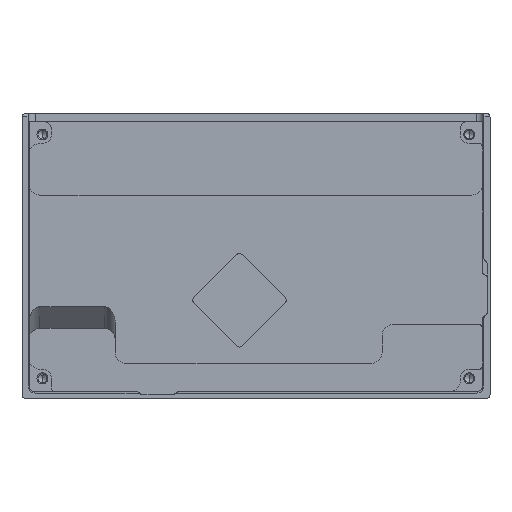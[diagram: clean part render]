
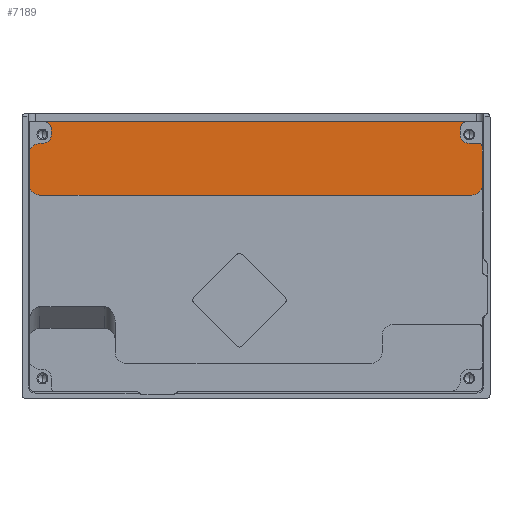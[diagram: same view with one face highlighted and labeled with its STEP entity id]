
A CAD part, front view. The second image highlights one B-rep face of the part: STEP entity #7189.
In plain terms, the highlighted planar face has unit normal (0, -1, 0).
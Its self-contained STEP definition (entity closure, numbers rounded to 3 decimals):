
#98 = DIRECTION ( 'NONE',  ( 0., -1., 0. ) ) ;
#169 = EDGE_CURVE ( 'NONE', #3846, #5768, #5826, .T. ) ;
#356 = EDGE_CURVE ( 'NONE', #5003, #4691, #3264, .T. ) ;
#447 = DIRECTION ( 'NONE',  ( 0., 0., -1. ) ) ;
#484 = DIRECTION ( 'NONE',  ( 0., 1., 0. ) ) ;
#624 = DIRECTION ( 'NONE',  ( -1., 0., 0. ) ) ;
#698 = ORIENTED_EDGE ( 'NONE', *, *, #4154, .F. ) ;
#801 = EDGE_CURVE ( 'NONE', #5756, #5670, #4018, .T. ) ;
#843 = VERTEX_POINT ( 'NONE', #8776 ) ;
#1005 = CIRCLE ( 'NONE', #1570, 3. ) ;
#1021 = ORIENTED_EDGE ( 'NONE', *, *, #6438, .T. ) ;
#1022 = CIRCLE ( 'NONE', #7600, 2. ) ;
#1087 = DIRECTION ( 'NONE',  ( 0., 0., -1. ) ) ;
#1110 = VERTEX_POINT ( 'NONE', #3136 ) ;
#1113 = EDGE_CURVE ( 'NONE', #5756, #1110, #1022, .T. ) ;
#1126 = DIRECTION ( 'NONE',  ( 0., 1., 0. ) ) ;
#1179 = ORIENTED_EDGE ( 'NONE', *, *, #6217, .T. ) ;
#1180 = VERTEX_POINT ( 'NONE', #3088 ) ;
#1339 = LINE ( 'NONE', #6028, #7005 ) ;
#1384 = CIRCLE ( 'NONE', #6105, 3. ) ;
#1408 = CARTESIAN_POINT ( 'NONE',  ( 123.2, 23.5, -20.4 ) ) ;
#1570 = AXIS2_PLACEMENT_3D ( 'NONE', #6071, #2561, #5480 ) ;
#1576 = CIRCLE ( 'NONE', #8589, 2.5 ) ;
#1632 = CARTESIAN_POINT ( 'NONE',  ( 3.5, 23.5, -6. ) ) ;
#1703 = DIRECTION ( 'NONE',  ( 0., 0., 1. ) ) ;
#1846 = VECTOR ( 'NONE', #7569, 1000. ) ;
#1860 = VECTOR ( 'NONE', #5256, 1000. ) ;
#1981 = ORIENTED_EDGE ( 'NONE', *, *, #1113, .T. ) ;
#2015 = EDGE_CURVE ( 'NONE', #3339, #5768, #1384, .T. ) ;
#2023 = EDGE_CURVE ( 'NONE', #8604, #5210, #7974, .T. ) ;
#2029 = ORIENTED_EDGE ( 'NONE', *, *, #2015, .T. ) ;
#2302 = ORIENTED_EDGE ( 'NONE', *, *, #6774, .T. ) ;
#2466 = CIRCLE ( 'NONE', #8055, 3. ) ;
#2498 = ORIENTED_EDGE ( 'NONE', *, *, #6047, .F. ) ;
#2545 = VECTOR ( 'NONE', #1703, 1000. ) ;
#2548 = ORIENTED_EDGE ( 'NONE', *, *, #4399, .F. ) ;
#2556 = CARTESIAN_POINT ( 'NONE',  ( -0.75, 23.5, 0.1 ) ) ;
#2561 = DIRECTION ( 'NONE',  ( 0., -1., 0. ) ) ;
#2775 = ORIENTED_EDGE ( 'NONE', *, *, #801, .F. ) ;
#2819 = FACE_OUTER_BOUND ( 'NONE', #8385, .T. ) ;
#2927 = DIRECTION ( 'NONE',  ( 0., -1., 0. ) ) ;
#2983 = DIRECTION ( 'NONE',  ( 0., -1., 0. ) ) ;
#2993 = CARTESIAN_POINT ( 'NONE',  ( 125.2, 23.5, -6. ) ) ;
#3039 = CARTESIAN_POINT ( 'NONE',  ( 120., 23.5, -3.5 ) ) ;
#3065 = VERTEX_POINT ( 'NONE', #6377 ) ;
#3084 = VERTEX_POINT ( 'NONE', #3597 ) ;
#3088 = CARTESIAN_POINT ( 'NONE',  ( -0.2, 23.5, -9. ) ) ;
#3100 = ORIENTED_EDGE ( 'NONE', *, *, #3149, .F. ) ;
#3136 = CARTESIAN_POINT ( 'NONE',  ( 122., 23.5, 0.1 ) ) ;
#3149 = EDGE_CURVE ( 'NONE', #4007, #1180, #6467, .T. ) ;
#3173 = CARTESIAN_POINT ( 'NONE',  ( 126.2, 23.5, -17.4 ) ) ;
#3175 = CARTESIAN_POINT ( 'NONE',  ( 6., 23.5, 0. ) ) ;
#3264 = LINE ( 'NONE', #3175, #7556 ) ;
#3339 = VERTEX_POINT ( 'NONE', #1408 ) ;
#3404 = DIRECTION ( 'NONE',  ( 0., -1., 0. ) ) ;
#3409 = CARTESIAN_POINT ( 'NONE',  ( 6., 23.5, -1.9 ) ) ;
#3556 = CARTESIAN_POINT ( 'NONE',  ( 125.2, 23.5, -7. ) ) ;
#3597 = CARTESIAN_POINT ( 'NONE',  ( 2.8, 23.5, -6. ) ) ;
#3659 = CARTESIAN_POINT ( 'NONE',  ( 0., 23.5, 0. ) ) ;
#3700 = DIRECTION ( 'NONE',  ( 0., 0., -1. ) ) ;
#3747 = CARTESIAN_POINT ( 'NONE',  ( 122.5, 23.5, -6. ) ) ;
#3846 = VERTEX_POINT ( 'NONE', #5796 ) ;
#3856 = AXIS2_PLACEMENT_3D ( 'NONE', #3659, #98, #5674 ) ;
#3947 = VERTEX_POINT ( 'NONE', #1632 ) ;
#4007 = VERTEX_POINT ( 'NONE', #5891 ) ;
#4018 = LINE ( 'NONE', #6692, #1860 ) ;
#4125 = PLANE ( 'NONE',  #3856 ) ;
#4154 = EDGE_CURVE ( 'NONE', #3339, #3065, #1339, .T. ) ;
#4399 = EDGE_CURVE ( 'NONE', #843, #1110, #4569, .T. ) ;
#4502 = CARTESIAN_POINT ( 'NONE',  ( 3.5, 23.5, -3.5 ) ) ;
#4569 = LINE ( 'NONE', #2556, #6031 ) ;
#4609 = DIRECTION ( 'NONE',  ( 0., -1., 0. ) ) ;
#4632 = ORIENTED_EDGE ( 'NONE', *, *, #5248, .F. ) ;
#4691 = VERTEX_POINT ( 'NONE', #5646 ) ;
#4894 = CIRCLE ( 'NONE', #8629, 2.5 ) ;
#4928 = ORIENTED_EDGE ( 'NONE', *, *, #5298, .T. ) ;
#4943 = VECTOR ( 'NONE', #8694, 1000. ) ;
#5003 = VERTEX_POINT ( 'NONE', #3409 ) ;
#5096 = CARTESIAN_POINT ( 'NONE',  ( 126.2, 23.5, 0.1 ) ) ;
#5210 = VERTEX_POINT ( 'NONE', #3747 ) ;
#5223 = DIRECTION ( 'NONE',  ( 0., 0., -1. ) ) ;
#5224 = CARTESIAN_POINT ( 'NONE',  ( 0., 23.5, -6. ) ) ;
#5248 = EDGE_CURVE ( 'NONE', #3947, #4691, #4894, .T. ) ;
#5256 = DIRECTION ( 'NONE',  ( 0., 0., -1. ) ) ;
#5298 = EDGE_CURVE ( 'NONE', #4007, #3065, #2466, .T. ) ;
#5480 = DIRECTION ( 'NONE',  ( 0., 0., -1. ) ) ;
#5646 = CARTESIAN_POINT ( 'NONE',  ( 6., 23.5, -3.5 ) ) ;
#5670 = VERTEX_POINT ( 'NONE', #3039 ) ;
#5674 = DIRECTION ( 'NONE',  ( 0., 0., -1. ) ) ;
#5756 = VERTEX_POINT ( 'NONE', #5857 ) ;
#5768 = VERTEX_POINT ( 'NONE', #3173 ) ;
#5788 = DIRECTION ( 'NONE',  ( 1., 0., 0. ) ) ;
#5796 = CARTESIAN_POINT ( 'NONE',  ( 126.2, 23.5, -7. ) ) ;
#5826 = LINE ( 'NONE', #5096, #7840 ) ;
#5844 = CIRCLE ( 'NONE', #8282, 1. ) ;
#5857 = CARTESIAN_POINT ( 'NONE',  ( 120., 23.5, -1.9 ) ) ;
#5891 = CARTESIAN_POINT ( 'NONE',  ( -0.2, 23.5, -17.4 ) ) ;
#5920 = DIRECTION ( 'NONE',  ( 0., 0., -1. ) ) ;
#5949 = CARTESIAN_POINT ( 'NONE',  ( 123.2, 23.5, -17.4 ) ) ;
#6028 = CARTESIAN_POINT ( 'NONE',  ( 126.2, 23.5, -20.4 ) ) ;
#6031 = VECTOR ( 'NONE', #5788, 1000. ) ;
#6047 = EDGE_CURVE ( 'NONE', #5670, #5210, #1576, .T. ) ;
#6071 = CARTESIAN_POINT ( 'NONE',  ( 2.8, 23.5, -9. ) ) ;
#6105 = AXIS2_PLACEMENT_3D ( 'NONE', #5949, #4609, #447 ) ;
#6217 = EDGE_CURVE ( 'NONE', #843, #5003, #6578, .T. ) ;
#6300 = DIRECTION ( 'NONE',  ( 0., 0., -1. ) ) ;
#6377 = CARTESIAN_POINT ( 'NONE',  ( 2.8, 23.5, -20.4 ) ) ;
#6438 = EDGE_CURVE ( 'NONE', #3846, #8604, #5844, .T. ) ;
#6467 = LINE ( 'NONE', #7223, #2545 ) ;
#6499 = CARTESIAN_POINT ( 'NONE',  ( 122., 23.5, -1.9 ) ) ;
#6578 = CIRCLE ( 'NONE', #8450, 2. ) ;
#6647 = CARTESIAN_POINT ( 'NONE',  ( 4., 23.5, -1.9 ) ) ;
#6692 = CARTESIAN_POINT ( 'NONE',  ( 120., 23.5, 0. ) ) ;
#6754 = DIRECTION ( 'NONE',  ( 0., -1., 0. ) ) ;
#6774 = EDGE_CURVE ( 'NONE', #3084, #1180, #1005, .T. ) ;
#6794 = CARTESIAN_POINT ( 'NONE',  ( 122.5, 23.5, -3.5 ) ) ;
#6857 = LINE ( 'NONE', #8463, #1846 ) ;
#6974 = ORIENTED_EDGE ( 'NONE', *, *, #7190, .F. ) ;
#6983 = ORIENTED_EDGE ( 'NONE', *, *, #169, .F. ) ;
#7005 = VECTOR ( 'NONE', #624, 1000. ) ;
#7189 = ADVANCED_FACE ( 'NONE', ( #2819 ), #4125, .T. ) ;
#7190 = EDGE_CURVE ( 'NONE', #3084, #3947, #6857, .T. ) ;
#7223 = CARTESIAN_POINT ( 'NONE',  ( -0.2, 23.5, -75.1 ) ) ;
#7556 = VECTOR ( 'NONE', #5223, 1000. ) ;
#7569 = DIRECTION ( 'NONE',  ( 1., 0., 0. ) ) ;
#7600 = AXIS2_PLACEMENT_3D ( 'NONE', #6499, #1126, #5920 ) ;
#7840 = VECTOR ( 'NONE', #1087, 1000. ) ;
#7896 = ORIENTED_EDGE ( 'NONE', *, *, #2023, .T. ) ;
#7974 = LINE ( 'NONE', #5224, #4943 ) ;
#8055 = AXIS2_PLACEMENT_3D ( 'NONE', #8872, #6754, #8829 ) ;
#8282 = AXIS2_PLACEMENT_3D ( 'NONE', #3556, #2927, #6300 ) ;
#8385 = EDGE_LOOP ( 'NONE', ( #3100, #4928, #698, #2029, #6983, #1021, #7896, #2498, #2775, #1981, #2548, #1179, #8678, #4632, #6974, #2302 ) ) ;
#8450 = AXIS2_PLACEMENT_3D ( 'NONE', #6647, #484, #8588 ) ;
#8463 = CARTESIAN_POINT ( 'NONE',  ( 0., 23.5, -6. ) ) ;
#8588 = DIRECTION ( 'NONE',  ( 0., 0., -1. ) ) ;
#8589 = AXIS2_PLACEMENT_3D ( 'NONE', #6794, #3404, #8876 ) ;
#8604 = VERTEX_POINT ( 'NONE', #2993 ) ;
#8629 = AXIS2_PLACEMENT_3D ( 'NONE', #4502, #2983, #3700 ) ;
#8678 = ORIENTED_EDGE ( 'NONE', *, *, #356, .T. ) ;
#8694 = DIRECTION ( 'NONE',  ( -1., 0., 0. ) ) ;
#8776 = CARTESIAN_POINT ( 'NONE',  ( 4., 23.5, 0.1 ) ) ;
#8829 = DIRECTION ( 'NONE',  ( 0., 0., -1. ) ) ;
#8872 = CARTESIAN_POINT ( 'NONE',  ( 2.8, 23.5, -17.4 ) ) ;
#8876 = DIRECTION ( 'NONE',  ( 0., 0., -1. ) ) ;
